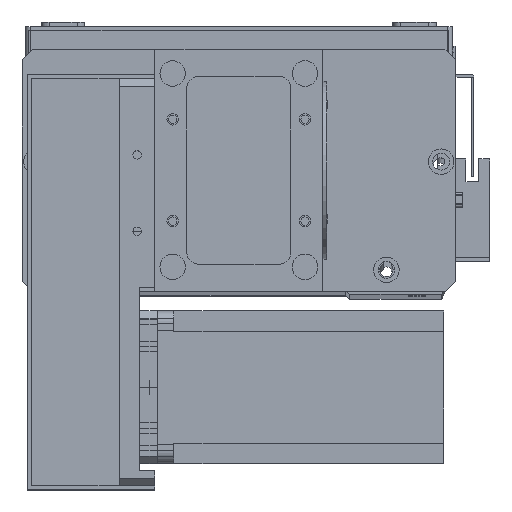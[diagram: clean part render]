
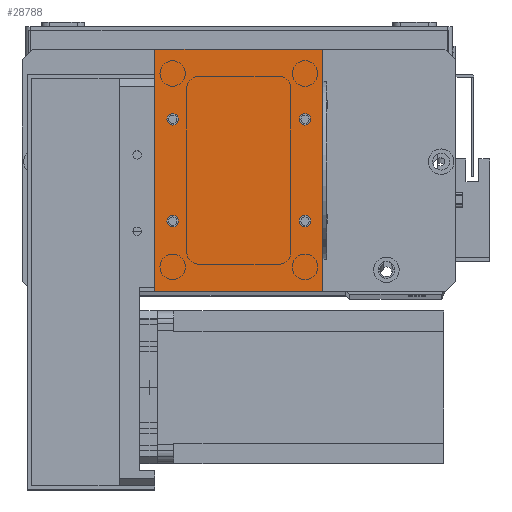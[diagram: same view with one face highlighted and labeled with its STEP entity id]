
A CAD part, top view. The second image highlights one B-rep face of the part: STEP entity #28788.
In plain terms, the highlighted planar face has unit normal (0, 0, 1).
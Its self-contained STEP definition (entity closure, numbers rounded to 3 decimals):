
#23 = ORIENTED_EDGE ( 'NONE', *, *, #6809, .F. ) ;
#657 = VERTEX_POINT ( 'NONE', #935 ) ;
#682 = ORIENTED_EDGE ( 'NONE', *, *, #12788, .F. ) ;
#898 = CARTESIAN_POINT ( 'NONE',  ( 61.25, 67.5, 2. ) ) ;
#935 = CARTESIAN_POINT ( 'NONE',  ( 4.75, 67.5, 2. ) ) ;
#1083 = DIRECTION ( 'NONE',  ( 0., 0., 1. ) ) ;
#1744 = DIRECTION ( 'NONE',  ( 0., 0., 1. ) ) ;
#1899 = EDGE_CURVE ( 'NONE', #13764, #13930, #3141, .T. ) ;
#2026 = DIRECTION ( 'NONE',  ( 1., 0., 0. ) ) ;
#2138 = LINE ( 'NONE', #5517, #28494 ) ;
#2269 = DIRECTION ( 'NONE',  ( 1., 0., 0. ) ) ;
#2345 = AXIS2_PLACEMENT_3D ( 'NONE', #17490, #2682, #19967 ) ;
#2384 = DIRECTION ( 'NONE',  ( -1., 0., 0. ) ) ;
#2682 = DIRECTION ( 'NONE',  ( 0., 0., 1. ) ) ;
#2801 = FACE_BOUND ( 'NONE', #9819, .T. ) ;
#2945 = AXIS2_PLACEMENT_3D ( 'NONE', #16547, #1744, #19051 ) ;
#3141 = CIRCLE ( 'NONE', #11172, 2.25 ) ;
#3153 = ORIENTED_EDGE ( 'NONE', *, *, #3977, .F. ) ;
#3184 = CARTESIAN_POINT ( 'NONE',  ( 0., 95., 2. ) ) ;
#3914 = DIRECTION ( 'NONE',  ( 0., 0., 1. ) ) ;
#3917 = CARTESIAN_POINT ( 'NONE',  ( 7., 67.5, 2. ) ) ;
#3977 = EDGE_CURVE ( 'NONE', #13930, #13764, #5711, .T. ) ;
#4000 = ORIENTED_EDGE ( 'NONE', *, *, #24425, .F. ) ;
#4155 = VERTEX_POINT ( 'NONE', #27084 ) ;
#4177 = ORIENTED_EDGE ( 'NONE', *, *, #27724, .F. ) ;
#4210 = EDGE_CURVE ( 'NONE', #11138, #6489, #6089, .T. ) ;
#5517 = CARTESIAN_POINT ( 'NONE',  ( 0., 0., 2. ) ) ;
#5711 = CIRCLE ( 'NONE', #2945, 2.25 ) ;
#5766 = VERTEX_POINT ( 'NONE', #21592 ) ;
#6067 = ORIENTED_EDGE ( 'NONE', *, *, #4210, .F. ) ;
#6089 = CIRCLE ( 'NONE', #2345, 2.25 ) ;
#6399 = DIRECTION ( 'NONE',  ( 1., 0., 0. ) ) ;
#6489 = VERTEX_POINT ( 'NONE', #30416 ) ;
#6809 = EDGE_CURVE ( 'NONE', #6489, #11138, #25768, .T. ) ;
#7152 = VERTEX_POINT ( 'NONE', #25798 ) ;
#7312 = VERTEX_POINT ( 'NONE', #16384 ) ;
#8029 = EDGE_LOOP ( 'NONE', ( #30511, #19597, #14940, #13099 ) ) ;
#8609 = AXIS2_PLACEMENT_3D ( 'NONE', #3917, #21183, #6399 ) ;
#9136 = VERTEX_POINT ( 'NONE', #17518 ) ;
#9340 = DIRECTION ( 'NONE',  ( 1., 0., 0. ) ) ;
#9360 = EDGE_CURVE ( 'NONE', #13647, #4155, #12020, .T. ) ;
#9587 = CIRCLE ( 'NONE', #8609, 2.25 ) ;
#9606 = CARTESIAN_POINT ( 'NONE',  ( 66., 0., 2. ) ) ;
#9819 = EDGE_LOOP ( 'NONE', ( #4177, #22254 ) ) ;
#10718 = DIRECTION ( 'NONE',  ( -1., 0., 0. ) ) ;
#10922 = CARTESIAN_POINT ( 'NONE',  ( 4.75, 27.5, 2. ) ) ;
#11138 = VERTEX_POINT ( 'NONE', #10922 ) ;
#11172 = AXIS2_PLACEMENT_3D ( 'NONE', #13106, #12051, #12365 ) ;
#11811 = CARTESIAN_POINT ( 'NONE',  ( 0., 0., 2. ) ) ;
#12020 = CIRCLE ( 'NONE', #27046, 2.25 ) ;
#12051 = DIRECTION ( 'NONE',  ( 0., 0., 1. ) ) ;
#12202 = PLANE ( 'NONE',  #30140 ) ;
#12365 = DIRECTION ( 'NONE',  ( 1., 0., 0. ) ) ;
#12788 = EDGE_CURVE ( 'NONE', #657, #7312, #19606, .T. ) ;
#13099 = ORIENTED_EDGE ( 'NONE', *, *, #13910, .T. ) ;
#13106 = CARTESIAN_POINT ( 'NONE',  ( 59., 67.5, 2. ) ) ;
#13647 = VERTEX_POINT ( 'NONE', #14630 ) ;
#13764 = VERTEX_POINT ( 'NONE', #22516 ) ;
#13910 = EDGE_CURVE ( 'NONE', #5766, #9136, #21340, .T. ) ;
#13930 = VERTEX_POINT ( 'NONE', #898 ) ;
#14630 = CARTESIAN_POINT ( 'NONE',  ( 56.75, 27.5, 2. ) ) ;
#14738 = VECTOR ( 'NONE', #10718, 1000. ) ;
#14940 = ORIENTED_EDGE ( 'NONE', *, *, #23640, .T. ) ;
#15154 = FACE_OUTER_BOUND ( 'NONE', #8029, .T. ) ;
#15881 = CARTESIAN_POINT ( 'NONE',  ( 59., 27.5, 2. ) ) ;
#16099 = CARTESIAN_POINT ( 'NONE',  ( 66., 0., 2. ) ) ;
#16384 = CARTESIAN_POINT ( 'NONE',  ( 9.25, 67.5, 2. ) ) ;
#16547 = CARTESIAN_POINT ( 'NONE',  ( 59., 67.5, 2. ) ) ;
#16825 = DIRECTION ( 'NONE',  ( 0., 0., 1. ) ) ;
#16960 = LINE ( 'NONE', #11811, #21980 ) ;
#16995 = EDGE_CURVE ( 'NONE', #7152, #21788, #16960, .T. ) ;
#17064 = DIRECTION ( 'NONE',  ( 0., 0., 1. ) ) ;
#17175 = DIRECTION ( 'NONE',  ( 0., 0., -1. ) ) ;
#17367 = LINE ( 'NONE', #9606, #29823 ) ;
#17490 = CARTESIAN_POINT ( 'NONE',  ( 7., 27.5, 2. ) ) ;
#17518 = CARTESIAN_POINT ( 'NONE',  ( 0., 95., 2. ) ) ;
#17558 = CIRCLE ( 'NONE', #21555, 2.25 ) ;
#17845 = DIRECTION ( 'NONE',  ( 0., -1., 0. ) ) ;
#18389 = DIRECTION ( 'NONE',  ( 1., 0., 0. ) ) ;
#18548 = EDGE_LOOP ( 'NONE', ( #4000, #682 ) ) ;
#18710 = CARTESIAN_POINT ( 'NONE',  ( 7., 67.5, 2. ) ) ;
#19051 = DIRECTION ( 'NONE',  ( 1., 0., 0. ) ) ;
#19597 = ORIENTED_EDGE ( 'NONE', *, *, #16995, .T. ) ;
#19606 = CIRCLE ( 'NONE', #24418, 2.25 ) ;
#19681 = EDGE_LOOP ( 'NONE', ( #3153, #31312 ) ) ;
#19967 = DIRECTION ( 'NONE',  ( 1., 0., 0. ) ) ;
#21177 = DIRECTION ( 'NONE',  ( 1., 0., 0. ) ) ;
#21183 = DIRECTION ( 'NONE',  ( 0., 0., 1. ) ) ;
#21340 = LINE ( 'NONE', #3184, #14738 ) ;
#21555 = AXIS2_PLACEMENT_3D ( 'NONE', #31951, #17064, #2269 ) ;
#21592 = CARTESIAN_POINT ( 'NONE',  ( 66., 95., 2. ) ) ;
#21770 = FACE_BOUND ( 'NONE', #19681, .T. ) ;
#21788 = VERTEX_POINT ( 'NONE', #16099 ) ;
#21980 = VECTOR ( 'NONE', #9340, 1000. ) ;
#22254 = ORIENTED_EDGE ( 'NONE', *, *, #9360, .F. ) ;
#22516 = CARTESIAN_POINT ( 'NONE',  ( 56.75, 67.5, 2. ) ) ;
#23305 = AXIS2_PLACEMENT_3D ( 'NONE', #31717, #16825, #2026 ) ;
#23640 = EDGE_CURVE ( 'NONE', #21788, #5766, #17367, .T. ) ;
#24418 = AXIS2_PLACEMENT_3D ( 'NONE', #18710, #3914, #21177 ) ;
#24425 = EDGE_CURVE ( 'NONE', #7312, #657, #9587, .T. ) ;
#25768 = CIRCLE ( 'NONE', #23305, 2.25 ) ;
#25798 = CARTESIAN_POINT ( 'NONE',  ( 0., 0., 2. ) ) ;
#27046 = AXIS2_PLACEMENT_3D ( 'NONE', #15881, #1083, #18389 ) ;
#27084 = CARTESIAN_POINT ( 'NONE',  ( 61.25, 27.5, 2. ) ) ;
#27092 = CARTESIAN_POINT ( 'NONE',  ( 0., 0., 2. ) ) ;
#27342 = EDGE_CURVE ( 'NONE', #9136, #7152, #2138, .T. ) ;
#27724 = EDGE_CURVE ( 'NONE', #4155, #13647, #17558, .T. ) ;
#28068 = EDGE_LOOP ( 'NONE', ( #23, #6067 ) ) ;
#28399 = FACE_BOUND ( 'NONE', #28068, .T. ) ;
#28494 = VECTOR ( 'NONE', #17845, 1000. ) ;
#28788 = ADVANCED_FACE ( 'NONE', ( #29190, #21770, #2801, #28399, #15154 ), #12202, .F. ) ;
#29190 = FACE_BOUND ( 'NONE', #18548, .T. ) ;
#29479 = DIRECTION ( 'NONE',  ( 0., 1., 0. ) ) ;
#29823 = VECTOR ( 'NONE', #29479, 1000. ) ;
#30140 = AXIS2_PLACEMENT_3D ( 'NONE', #27092, #17175, #2384 ) ;
#30416 = CARTESIAN_POINT ( 'NONE',  ( 9.25, 27.5, 2. ) ) ;
#30511 = ORIENTED_EDGE ( 'NONE', *, *, #27342, .T. ) ;
#31312 = ORIENTED_EDGE ( 'NONE', *, *, #1899, .F. ) ;
#31717 = CARTESIAN_POINT ( 'NONE',  ( 7., 27.5, 2. ) ) ;
#31951 = CARTESIAN_POINT ( 'NONE',  ( 59., 27.5, 2. ) ) ;
